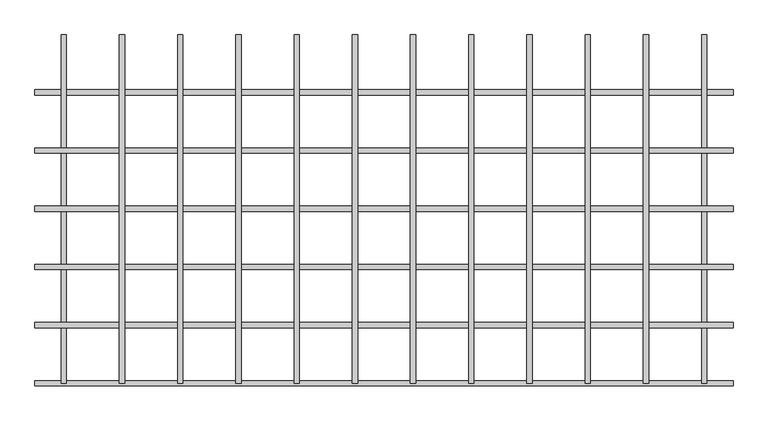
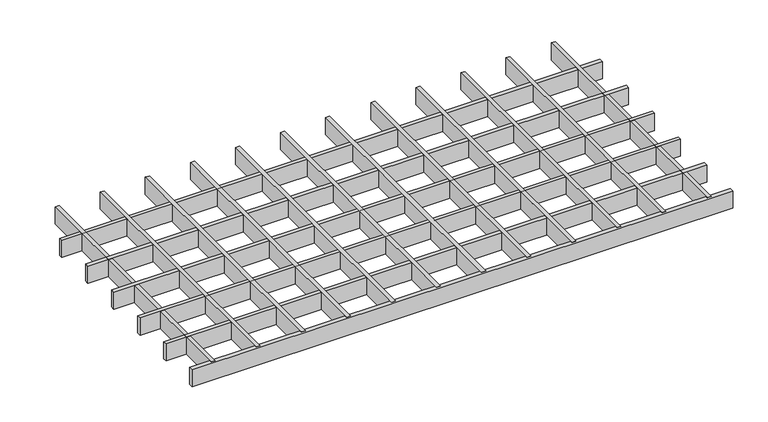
"""IFC4 building model written with IfcOpenShell, lengths in millimetres: proxy geometry, durlum_GEO_panel : durlum_GEO_9."""

from ifc_helpers import new_model, si_unit, origin, origin_with_axes, place, context, project, spatial, polyline, outline, extrude, source, transform, mapped, element, save


def generic_models_ebbf936e(model_context):
    return source(origin(), model_context, "Body", "SweptSolid", [
        extrude(outline(polyline([(445.5, 299.5), (454.5, 299.5), (454.5, -299.5), (445.5, -299.5), (445.5, 299.5)])), origin_with_axes(), (0.0, 0.0, 1.0), 40.0),
        extrude(outline(polyline([(345.5, 299.5), (354.5, 299.5), (354.5, -299.5), (345.5, -299.5), (345.5, 299.5)])), origin_with_axes(), (0.0, 0.0, 1.0), 40.0),
        extrude(outline(polyline([(245.5, 299.5), (254.5, 299.5), (254.5, -299.5), (245.5, -299.5), (245.5, 299.5)])), origin_with_axes(), (0.0, 0.0, 1.0), 40.0),
        extrude(outline(polyline([(145.5, 299.5), (154.5, 299.5), (154.5, -299.5), (145.5, -299.5), (145.5, 299.5)])), origin_with_axes(), (0.0, 0.0, 1.0), 40.0),
        extrude(outline(polyline([(45.5, 299.5), (54.5, 299.5), (54.5, -299.5), (45.5, -299.5), (45.5, 299.5)])), origin_with_axes(), (0.0, 0.0, 1.0), 40.0),
        extrude(outline(polyline([(-54.5, 299.5), (-45.5, 299.5), (-45.5, -299.5), (-54.5, -299.5), (-54.5, 299.5)])), origin_with_axes(), (0.0, 0.0, 1.0), 40.0),
        extrude(outline(polyline([(-154.5, 299.5), (-145.5, 299.5), (-145.5, -299.5), (-154.5, -299.5), (-154.5, 299.5)])), origin_with_axes(), (0.0, 0.0, 1.0), 40.0),
        extrude(outline(polyline([(-254.5, 299.5), (-245.5, 299.5), (-245.5, -299.5), (-254.5, -299.5), (-254.5, 299.5)])), origin_with_axes(), (0.0, 0.0, 1.0), 40.0),
        extrude(outline(polyline([(-354.5, 299.5), (-345.5, 299.5), (-345.5, -299.5), (-354.5, -299.5), (-354.5, 299.5)])), origin_with_axes(), (0.0, 0.0, 1.0), 40.0),
        extrude(outline(polyline([(-454.5, 299.5), (-445.5, 299.5), (-445.5, -299.5), (-454.5, -299.5), (-454.5, 299.5)])), origin_with_axes(), (0.0, 0.0, 1.0), 40.0),
        extrude(outline(polyline([(599.5, -195.0), (599.5, -204.0), (-599.5, -204.0), (-599.5, -195.0), (599.5, -195.0)])), origin_with_axes(), (0.0, 0.0, 1.0), 40.0),
        extrude(outline(polyline([(599.5, -95.0), (599.5, -104.0), (-599.5, -104.0), (-599.5, -95.0), (599.5, -95.0)])), origin_with_axes(), (0.0, 0.0, 1.0), 40.0),
        extrude(outline(polyline([(599.5, 5.0), (599.5, -4.0), (-599.5, -4.0), (-599.5, 5.0), (599.5, 5.0)])), origin_with_axes(), (0.0, 0.0, 1.0), 40.0),
        extrude(outline(polyline([(599.5, 105.0), (599.5, 96.0), (-599.5, 96.0), (-599.5, 105.0), (599.5, 105.0)])), origin_with_axes(), (0.0, 0.0, 1.0), 40.0),
        extrude(outline(polyline([(545.5, 299.5), (554.5, 299.5), (554.5, -299.5), (545.5, -299.5), (545.5, 299.5)])), origin_with_axes(), (0.0, 0.0, 1.0), 40.0),
        extrude(outline(polyline([(-554.5, 299.5), (-545.5, 299.5), (-545.5, -299.5), (-554.5, -299.5), (-554.5, 299.5)])), origin_with_axes(), (0.0, 0.0, 1.0), 40.0),
        extrude(outline(polyline([(599.5, -295.0), (599.5, -304.0), (-599.5, -304.0), (-599.5, -295.0), (599.5, -295.0)])), origin_with_axes(), (0.0, 0.0, 1.0), 40.0),
        extrude(outline(polyline([(599.5, 205.0), (599.5, 196.0), (-599.5, 196.0), (-599.5, 205.0), (599.5, 205.0)])), origin_with_axes(), (0.0, 0.0, 1.0), 40.0),
    ])


if __name__ == "__main__":
    model = new_model("IFC4")
    model_context = context("Model", 3, world=origin())
    ifc_project = project(units=[si_unit("LENGTHUNIT", "METRE", prefix="MILLI")], contexts=[model_context])
    site = spatial("IfcSite", under=ifc_project)
    building = spatial("IfcBuilding", under=site)
    placement = place(None, origin())
    generic_models_shape = generic_models_ebbf936e(model_context)
    element("IfcBuildingElementProxy", 1, Name="durlum_GEO_panel : durlum_GEO_9", ObjectType="durlum_GEO_panel : durlum_GEO_9", at=placement, inside=building, context=model_context, shape_type="MappedRepresentation", body=[
        mapped(generic_models_shape, transform((0.0, 0.0, 0.0), x_axis=(1.0, 0.0, 0.0), y_axis=(0.0, 1.0, 0.0), z_axis=(0.0, 0.0, 1.0))),
    ])
    save(model, "model.ifc")
